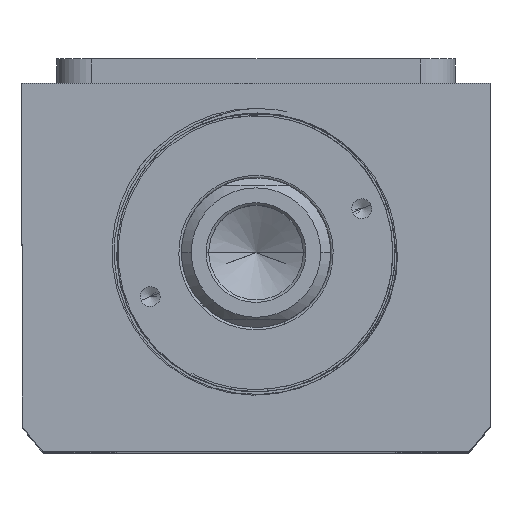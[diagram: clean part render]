
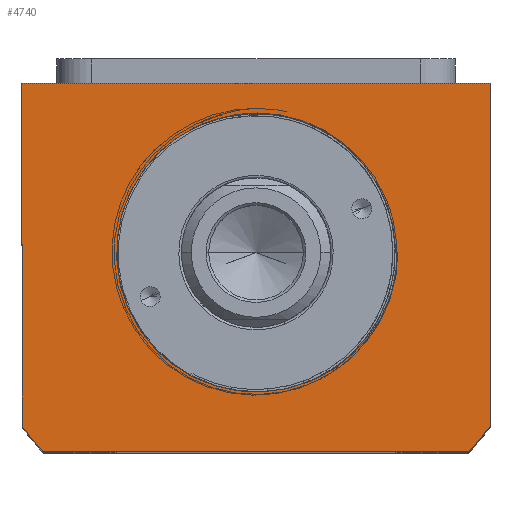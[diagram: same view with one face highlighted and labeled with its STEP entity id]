
A CAD part, top view. The second image highlights one B-rep face of the part: STEP entity #4740.
In plain terms, the highlighted planar face has unit normal (0, 0, 1).
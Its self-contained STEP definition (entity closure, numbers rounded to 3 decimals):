
#82 = DIRECTION ( 'NONE',  ( 0., 0., 1. ) ) ;
#134 = DIRECTION ( 'NONE',  ( 1., 0., 0. ) ) ;
#249 = CARTESIAN_POINT ( 'NONE',  ( 22.571, -17.007, 80. ) ) ;
#291 = CARTESIAN_POINT ( 'NONE',  ( 26.163, -10.961, 80. ) ) ;
#330 = CARTESIAN_POINT ( 'NONE',  ( 47., 34., 80. ) ) ;
#444 = VERTEX_POINT ( 'NONE', #10734 ) ;
#886 = DIRECTION ( 'NONE',  ( 1., 0., 0. ) ) ;
#956 = ORIENTED_EDGE ( 'NONE', *, *, #6029, .T. ) ;
#1066 = CARTESIAN_POINT ( 'NONE',  ( 20.224, -19.631, 80. ) ) ;
#1147 = CARTESIAN_POINT ( 'NONE',  ( 19.714, -20.129, 80. ) ) ;
#1250 = VERTEX_POINT ( 'NONE', #10860 ) ;
#1662 = EDGE_CURVE ( 'NONE', #7600, #4356, #9868, .T. ) ;
#1841 = FACE_OUTER_BOUND ( 'NONE', #10704, .T. ) ;
#1893 = VERTEX_POINT ( 'NONE', #8269 ) ;
#1927 = CARTESIAN_POINT ( 'NONE',  ( 42.688, -40., 80. ) ) ;
#1958 = DIRECTION ( 'NONE',  ( 1., 0., 0. ) ) ;
#2079 = DIRECTION ( 'NONE',  ( 0., 0., -1. ) ) ;
#2256 = DIRECTION ( 'NONE',  ( 0., 0., 1. ) ) ;
#2485 = ORIENTED_EDGE ( 'NONE', *, *, #7507, .T. ) ;
#2589 = ORIENTED_EDGE ( 'NONE', *, *, #7735, .T. ) ;
#2823 = CARTESIAN_POINT ( 'NONE',  ( 0., 0., 80. ) ) ;
#2828 = ORIENTED_EDGE ( 'NONE', *, *, #9729, .F. ) ;
#2974 = CARTESIAN_POINT ( 'NONE',  ( 24.898, -13.504, 80. ) ) ;
#3165 = ORIENTED_EDGE ( 'NONE', *, *, #5702, .T. ) ;
#3211 = CIRCLE ( 'NONE', #7779, 58.5 ) ;
#3282 = PLANE ( 'NONE',  #3603 ) ;
#3484 = CARTESIAN_POINT ( 'NONE',  ( -47., -34.832, 80. ) ) ;
#3603 = AXIS2_PLACEMENT_3D ( 'NONE', #4883, #2256, #11209 ) ;
#3729 = CARTESIAN_POINT ( 'NONE',  ( 15.3, -23.593, 80. ) ) ;
#3761 = CARTESIAN_POINT ( 'NONE',  ( 12.831, -24.945, 80. ) ) ;
#3812 = CARTESIAN_POINT ( 'NONE',  ( 0., 0., 80. ) ) ;
#3870 = CARTESIAN_POINT ( 'NONE',  ( 28.233, -3.538, 80. ) ) ;
#4133 = DIRECTION ( 'NONE',  ( -1., 0., 0. ) ) ;
#4202 = CARTESIAN_POINT ( 'NONE',  ( -47., -34.832, 80. ) ) ;
#4218 = FACE_BOUND ( 'NONE', #9917, .T. ) ;
#4356 = VERTEX_POINT ( 'NONE', #9769 ) ;
#4490 = LINE ( 'NONE', #8713, #7868 ) ;
#4565 = VERTEX_POINT ( 'NONE', #1927 ) ;
#4621 = CARTESIAN_POINT ( 'NONE',  ( 24.178, -14.712, 80. ) ) ;
#4702 = DIRECTION ( 'NONE',  ( 0., 0., 1. ) ) ;
#4740 = ADVANCED_FACE ( 'NONE', ( #4218, #1841 ), #3282, .T. ) ;
#4768 = CARTESIAN_POINT ( 'NONE',  ( 18.129, -21.529, 80. ) ) ;
#4883 = CARTESIAN_POINT ( 'NONE',  ( 0., 0., 80. ) ) ;
#5645 = CARTESIAN_POINT ( 'NONE',  ( 28.485, -0.71, 80. ) ) ;
#5684 = CARTESIAN_POINT ( 'NONE',  ( 27.555, -6.99, 80. ) ) ;
#5702 = EDGE_CURVE ( 'NONE', #1250, #444, #9992, .T. ) ;
#5798 = ORIENTED_EDGE ( 'NONE', *, *, #9340, .T. ) ;
#6029 = EDGE_CURVE ( 'NONE', #4356, #10492, #4490, .T. ) ;
#6422 = VECTOR ( 'NONE', #10654, 1000. ) ;
#6442 = LINE ( 'NONE', #3484, #7437 ) ;
#6557 = CARTESIAN_POINT ( 'NONE',  ( 21.684, -18.094, 80. ) ) ;
#6591 = CARTESIAN_POINT ( 'NONE',  ( 16.467, -22.819, 80. ) ) ;
#6626 = CARTESIAN_POINT ( 'NONE',  ( 47., -34.832, 80. ) ) ;
#6729 = VERTEX_POINT ( 'NONE', #7851 ) ;
#6839 = LINE ( 'NONE', #7879, #11281 ) ;
#6866 = CIRCLE ( 'NONE', #11108, 58.5 ) ;
#7279 = AXIS2_PLACEMENT_3D ( 'NONE', #3812, #2079, #1958 ) ;
#7437 = VECTOR ( 'NONE', #10442, 1000. ) ;
#7473 = CARTESIAN_POINT ( 'NONE',  ( 13.459, -24.624, 80. ) ) ;
#7494 = ORIENTED_EDGE ( 'NONE', *, *, #10964, .T. ) ;
#7507 = EDGE_CURVE ( 'NONE', #4565, #7600, #3211, .T. ) ;
#7600 = VERTEX_POINT ( 'NONE', #6626 ) ;
#7621 = DIRECTION ( 'NONE',  ( 0., 1., 0. ) ) ;
#7735 = EDGE_CURVE ( 'NONE', #11315, #6729, #6866, .T. ) ;
#7779 = AXIS2_PLACEMENT_3D ( 'NONE', #2823, #4702, #134 ) ;
#7851 = CARTESIAN_POINT ( 'NONE',  ( -42.688, -40., 80. ) ) ;
#7868 = VECTOR ( 'NONE', #4133, 1000. ) ;
#7879 = CARTESIAN_POINT ( 'NONE',  ( 0., 0., 80. ) ) ;
#8025 = ORIENTED_EDGE ( 'NONE', *, *, #8363, .T. ) ;
#8058 = CARTESIAN_POINT ( 'NONE',  ( 0., 0., 80. ) ) ;
#8269 = CARTESIAN_POINT ( 'NONE',  ( 28., 0., 80. ) ) ;
#8295 = CARTESIAN_POINT ( 'NONE',  ( -47., 34., 80. ) ) ;
#8363 = EDGE_CURVE ( 'NONE', #444, #1893, #9122, .T. ) ;
#8713 = CARTESIAN_POINT ( 'NONE',  ( -47., 34., 80. ) ) ;
#8784 = DIRECTION ( 'NONE',  ( -1., 0., 0. ) ) ;
#9122 = CIRCLE ( 'NONE', #7279, 28. ) ;
#9195 = CARTESIAN_POINT ( 'NONE',  ( 18.667, -21.077, 80. ) ) ;
#9230 = CARTESIAN_POINT ( 'NONE',  ( 26.694, -9.657, 80. ) ) ;
#9268 = CARTESIAN_POINT ( 'NONE',  ( 28.495, 0., 80. ) ) ;
#9340 = EDGE_CURVE ( 'NONE', #10492, #11315, #6442, .T. ) ;
#9729 = EDGE_CURVE ( 'NONE', #1250, #1893, #6839, .T. ) ;
#9734 = CARTESIAN_POINT ( 'NONE',  ( 42.688, -40., 80. ) ) ;
#9769 = CARTESIAN_POINT ( 'NONE',  ( 47., 34., 80. ) ) ;
#9868 = LINE ( 'NONE', #330, #10554 ) ;
#9917 = EDGE_LOOP ( 'NONE', ( #2828, #3165, #8025 ) ) ;
#9992 = B_SPLINE_CURVE_WITH_KNOTS ( 'NONE', 3,
 ( #9268, #5645, #11032, #10164, #3870, #10098, #5684, #9230, #291, #2974, #4621, #249, #6557, #1066, #1147, #9195, #4768, #6591, #3729, #7473, #3761, #10887, #10134, #10923 ),
 .UNSPECIFIED., .F., .F.,
 ( 4, 2, 2, 2, 2, 2, 2, 2, 2, 2, 2, 4 ),
 ( 0., 0.002, 0.004, 0.009, 0.013, 0.017, 0.021, 0.023, 0.026, 0.03, 0.032, 0.034 ),
 .UNSPECIFIED. ) ;
#10098 = CARTESIAN_POINT ( 'NONE',  ( 27.887, -5.628, 80. ) ) ;
#10134 = CARTESIAN_POINT ( 'NONE',  ( 10.89, -25.816, 80. ) ) ;
#10164 = CARTESIAN_POINT ( 'NONE',  ( 28.323, -2.832, 80. ) ) ;
#10310 = LINE ( 'NONE', #9734, #6422 ) ;
#10442 = DIRECTION ( 'NONE',  ( 0., -1., 0. ) ) ;
#10492 = VERTEX_POINT ( 'NONE', #8295 ) ;
#10554 = VECTOR ( 'NONE', #7621, 1000. ) ;
#10654 = DIRECTION ( 'NONE',  ( 1., 0., 0. ) ) ;
#10704 = EDGE_LOOP ( 'NONE', ( #956, #5798, #2589, #7494, #2485, #11277 ) ) ;
#10734 = CARTESIAN_POINT ( 'NONE',  ( 10.232, -26.064, 80. ) ) ;
#10860 = CARTESIAN_POINT ( 'NONE',  ( 28.495, 0., 80. ) ) ;
#10887 = CARTESIAN_POINT ( 'NONE',  ( 11.542, -25.544, 80. ) ) ;
#10923 = CARTESIAN_POINT ( 'NONE',  ( 10.232, -26.064, 80. ) ) ;
#10964 = EDGE_CURVE ( 'NONE', #6729, #4565, #10310, .T. ) ;
#11032 = CARTESIAN_POINT ( 'NONE',  ( 28.449, -1.419, 80. ) ) ;
#11108 = AXIS2_PLACEMENT_3D ( 'NONE', #8058, #82, #886 ) ;
#11209 = DIRECTION ( 'NONE',  ( 1., 0., 0. ) ) ;
#11277 = ORIENTED_EDGE ( 'NONE', *, *, #1662, .T. ) ;
#11281 = VECTOR ( 'NONE', #8784, 1000. ) ;
#11315 = VERTEX_POINT ( 'NONE', #4202 ) ;
